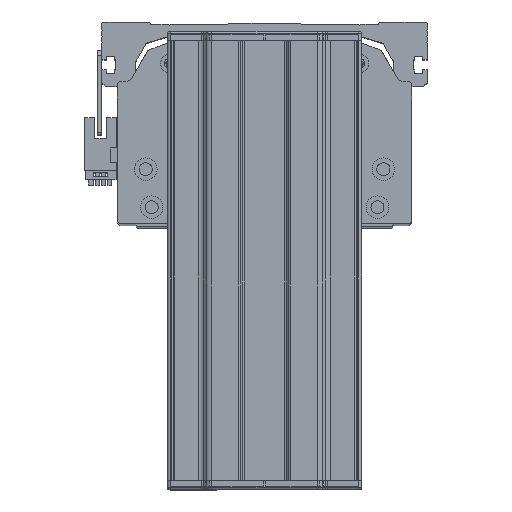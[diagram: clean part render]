
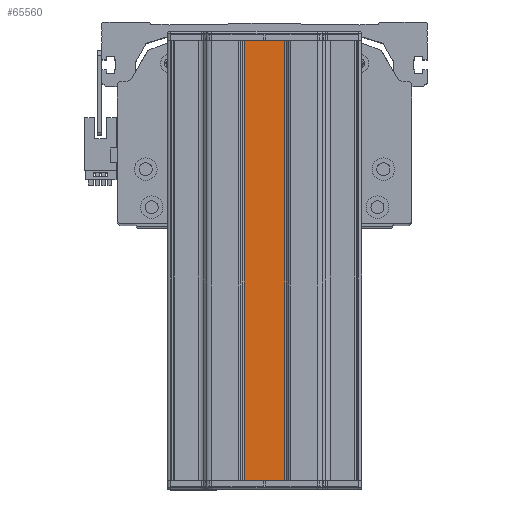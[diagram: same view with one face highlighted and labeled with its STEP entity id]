
A CAD part, top view. The second image highlights one B-rep face of the part: STEP entity #65560.
In plain terms, the highlighted planar face has unit normal (0, 0, 1) as drawn and (1, 0, 0) by its records, which use the part's own axes.
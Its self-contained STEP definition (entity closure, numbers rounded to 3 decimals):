
#65030=CARTESIAN_POINT('',(2.357,-8.586,92.5));
#65040=VERTEX_POINT('',#65030);
#65070=CARTESIAN_POINT('',(2.357,-8.586,-92.5));
#65080=DIRECTION('',(0.,0.,1.));
#65090=VECTOR('',#65080,1000.);
#65100=LINE('',#65070,#65090);
#65110=CARTESIAN_POINT('',(2.357,-8.586,-92.5));
#65120=VERTEX_POINT('',#65110);
#65130=EDGE_CURVE('',#65120,#65040,#65100,.T.);
#65260=CARTESIAN_POINT('',(2.357,8.586,-92.5));
#65270=DIRECTION('',(1.,0.,-0.));
#65280=DIRECTION('',(0.,0.,1.));
#65290=AXIS2_PLACEMENT_3D('',#65260,#65270,#65280);
#65300=PLANE('',#65290);
#65310=CARTESIAN_POINT('',(2.357,8.586,92.5));
#65320=DIRECTION('',(0.,1.,0.));
#65330=VECTOR('',#65320,1000.);
#65340=LINE('',#65310,#65330);
#65350=CARTESIAN_POINT('',(2.357,8.586,92.5));
#65360=VERTEX_POINT('',#65350);
#65370=EDGE_CURVE('',#65040,#65360,#65340,.T.);
#65380=ORIENTED_EDGE('',*,*,#65370,.F.);
#65390=CARTESIAN_POINT('',(2.357,8.586,-92.5));
#65400=DIRECTION('',(0.,0.,1.));
#65410=VECTOR('',#65400,1000.);
#65420=LINE('',#65390,#65410);
#65430=CARTESIAN_POINT('',(2.357,8.586,-92.5));
#65440=VERTEX_POINT('',#65430);
#65450=EDGE_CURVE('',#65440,#65360,#65420,.T.);
#65460=ORIENTED_EDGE('',*,*,#65450,.T.);
#65470=CARTESIAN_POINT('',(2.357,-8.586,-92.5));
#65480=DIRECTION('',(0.,1.,0.));
#65490=VECTOR('',#65480,1000.);
#65500=LINE('',#65470,#65490);
#65510=EDGE_CURVE('',#65120,#65440,#65500,.T.);
#65520=ORIENTED_EDGE('',*,*,#65510,.T.);
#65530=ORIENTED_EDGE('',*,*,#65130,.F.);
#65540=EDGE_LOOP('',(#65530,#65520,#65460,#65380));
#65550=FACE_OUTER_BOUND('',#65540,.T.);
#65560=ADVANCED_FACE('',(#65550),#65300,.T.);
